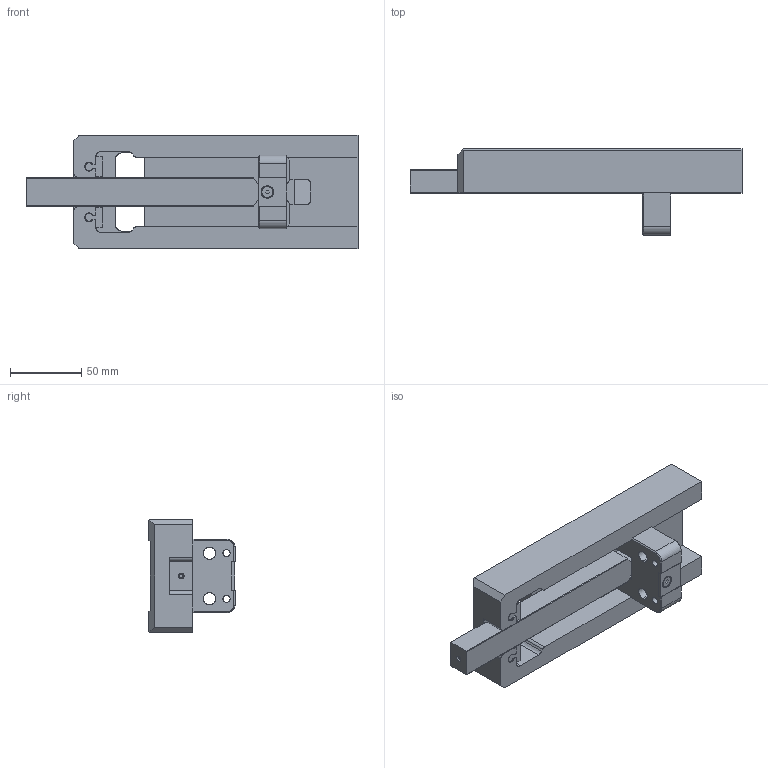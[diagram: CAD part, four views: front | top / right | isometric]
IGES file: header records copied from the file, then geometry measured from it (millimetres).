
Start section: SolidWorks IGES file using analytic representation for surfaces
Global section: file name: G:\CAD\Hakdrag\SA\SA-110\SA-110-200-00.igs; native system: SolidWorks 2015; preprocessor: SolidWorks 2015; author: ChBe; date: 150616.075800; units: millimetre
Bounding box: 233.64 x 60.6 x 80 mm (x, y, z)
Surface area: 80194.5 mm2 (no closed solid volume)
Topology: 0 solids, 0 shells, 154 faces, 1808 edges, 1808 vertices
Faces by surface type: bspline 95, revolution 59
